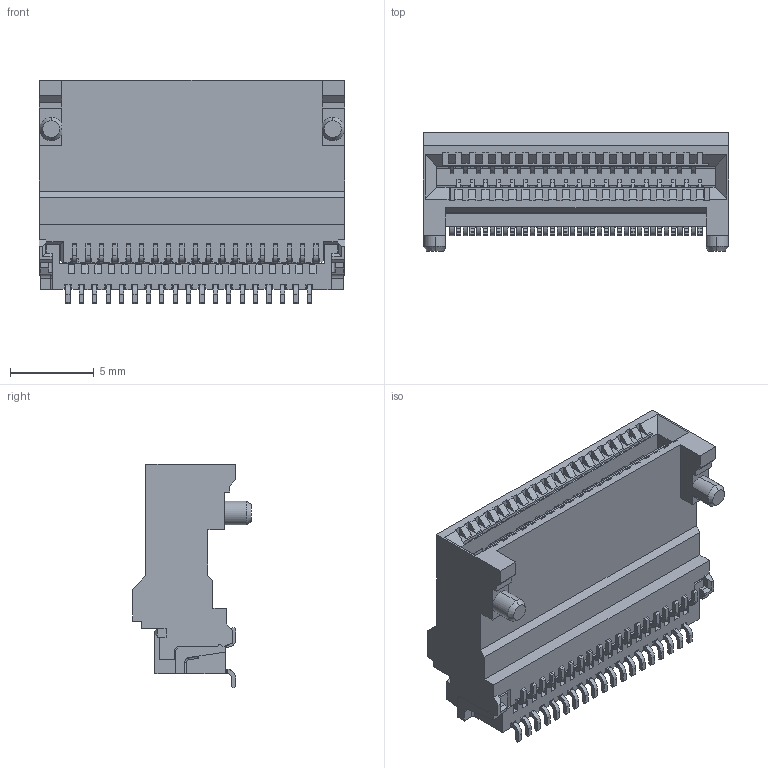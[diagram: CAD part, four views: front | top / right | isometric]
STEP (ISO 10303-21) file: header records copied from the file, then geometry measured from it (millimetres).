
FILE_DESCRIPTION (( 'STEP AP203' ), '1' );
FILE_NAME ('QSFP28 1X1连接器_3D-20230727.STEP', '2023-08-24T12:55:38', ( '桑三博客' ), ( 'Www.SangSan.Cn' ), 'SwSTEP 2.0', 'SolidWorks 2018', '' );
FILE_SCHEMA (( 'CONFIG_CONTROL_DESIGN' ));
Products named in the file (1): QSFP28 1X1蟀諉ん_3D-20230727
Bounding box: 18.2 x 7.1 x 13.31 mm (x, y, z)
Volume: 700.9 mm3; surface area: 1618.4 mm2
Topology: 1 solids, 1 shells, 2868 faces, 8335 edges, 5499 vertices
Faces by surface type: plane 1930, cylinder 868, bspline 60, torus 6, cone 4
Entity records: 94949 total; most frequent: CARTESIAN_POINT 18690, ORIENTED_EDGE 16670, DIRECTION 15086, EDGE_CURVE 8335, VECTOR 6282, LINE 6282, VERTEX_POINT 5499, AXIS2_PLACEMENT_3D 4402
